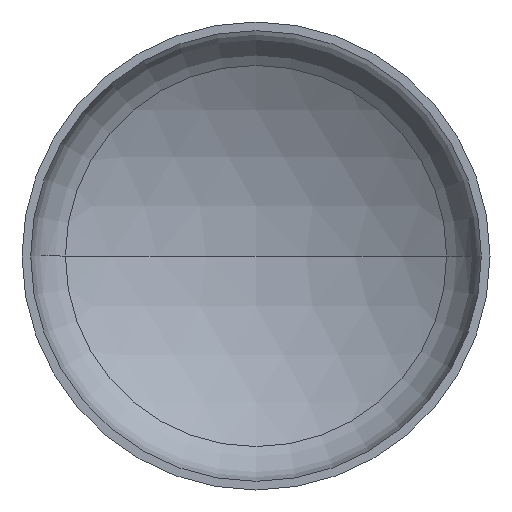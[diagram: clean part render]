
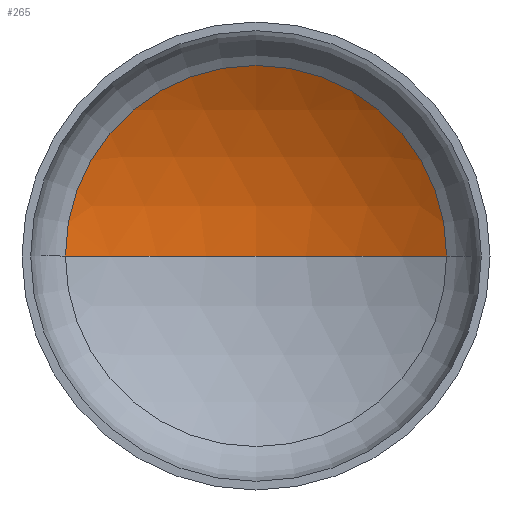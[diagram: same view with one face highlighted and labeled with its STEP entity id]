
A CAD part, front view. The second image highlights one B-rep face of the part: STEP entity #265.
In plain terms, the highlighted spherical face has radius 254 mm.
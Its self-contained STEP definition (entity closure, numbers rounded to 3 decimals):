
#7 = ORIENTED_EDGE ( 'NONE', *, *, #343, .F. ) ;
#14 = EDGE_LOOP ( 'NONE', ( #7, #108, #330 ) ) ;
#28 = VERTEX_POINT ( 'NONE', #181 ) ;
#41 = AXIS2_PLACEMENT_3D ( 'NONE', #154, #133, #157 ) ;
#43 = VERTEX_POINT ( 'NONE', #403 ) ;
#74 = EDGE_CURVE ( 'NONE', #28, #43, #168, .T. ) ;
#76 = EDGE_CURVE ( 'NONE', #78, #28, #155, .T. ) ;
#78 = VERTEX_POINT ( 'NONE', #165 ) ;
#108 = ORIENTED_EDGE ( 'NONE', *, *, #76, .T. ) ;
#133 = DIRECTION ( 'NONE',  ( 0., 0., -1. ) ) ;
#154 = CARTESIAN_POINT ( 'NONE',  ( 0., -154.329, 0. ) ) ;
#155 = CIRCLE ( 'NONE', #285, 254. ) ;
#157 = DIRECTION ( 'NONE',  ( -1., 0., 0. ) ) ;
#165 = CARTESIAN_POINT ( 'NONE',  ( 0., 99.671, 0. ) ) ;
#168 = CIRCLE ( 'NONE', #269, 131.918 ) ;
#179 = DIRECTION ( 'NONE',  ( 1., 0., 0. ) ) ;
#181 = CARTESIAN_POINT ( 'NONE',  ( 131.918, 62.728, 0. ) ) ;
#190 = AXIS2_PLACEMENT_3D ( 'NONE', #394, #396, #260 ) ;
#194 = CARTESIAN_POINT ( 'NONE',  ( 0., 62.728, 0. ) ) ;
#209 = DIRECTION ( 'NONE',  ( 0., 0., -1. ) ) ;
#213 = DIRECTION ( 'NONE',  ( -1., 0., 0. ) ) ;
#214 = CARTESIAN_POINT ( 'NONE',  ( 0., -154.329, 0. ) ) ;
#260 = DIRECTION ( 'NONE',  ( 1., 0., 0. ) ) ;
#262 = CIRCLE ( 'NONE', #190, 254. ) ;
#265 = ADVANCED_FACE ( 'NONE', ( #389 ), #276, .F. ) ;
#269 = AXIS2_PLACEMENT_3D ( 'NONE', #194, #362, #179 ) ;
#276 = SPHERICAL_SURFACE ( 'NONE', #41, 254. ) ;
#285 = AXIS2_PLACEMENT_3D ( 'NONE', #214, #209, #213 ) ;
#330 = ORIENTED_EDGE ( 'NONE', *, *, #74, .T. ) ;
#343 = EDGE_CURVE ( 'NONE', #78, #43, #262, .T. ) ;
#362 = DIRECTION ( 'NONE',  ( 0., -1., 0. ) ) ;
#389 = FACE_OUTER_BOUND ( 'NONE', #14, .T. ) ;
#394 = CARTESIAN_POINT ( 'NONE',  ( 0., -154.329, 0. ) ) ;
#396 = DIRECTION ( 'NONE',  ( 0., 0., 1. ) ) ;
#403 = CARTESIAN_POINT ( 'NONE',  ( -131.918, 62.728, 0. ) ) ;
